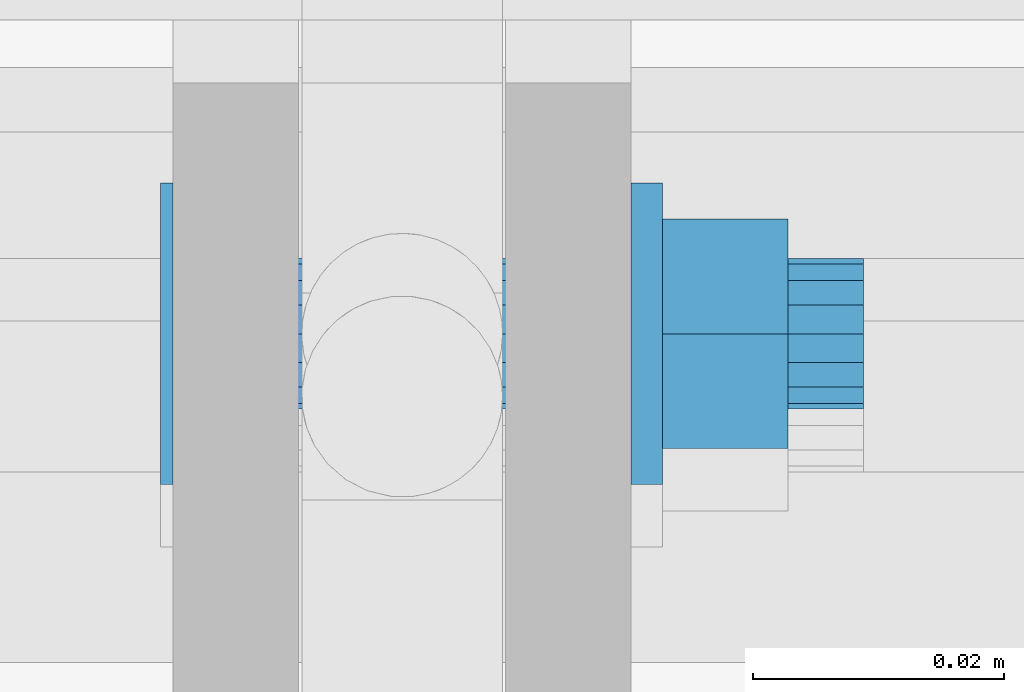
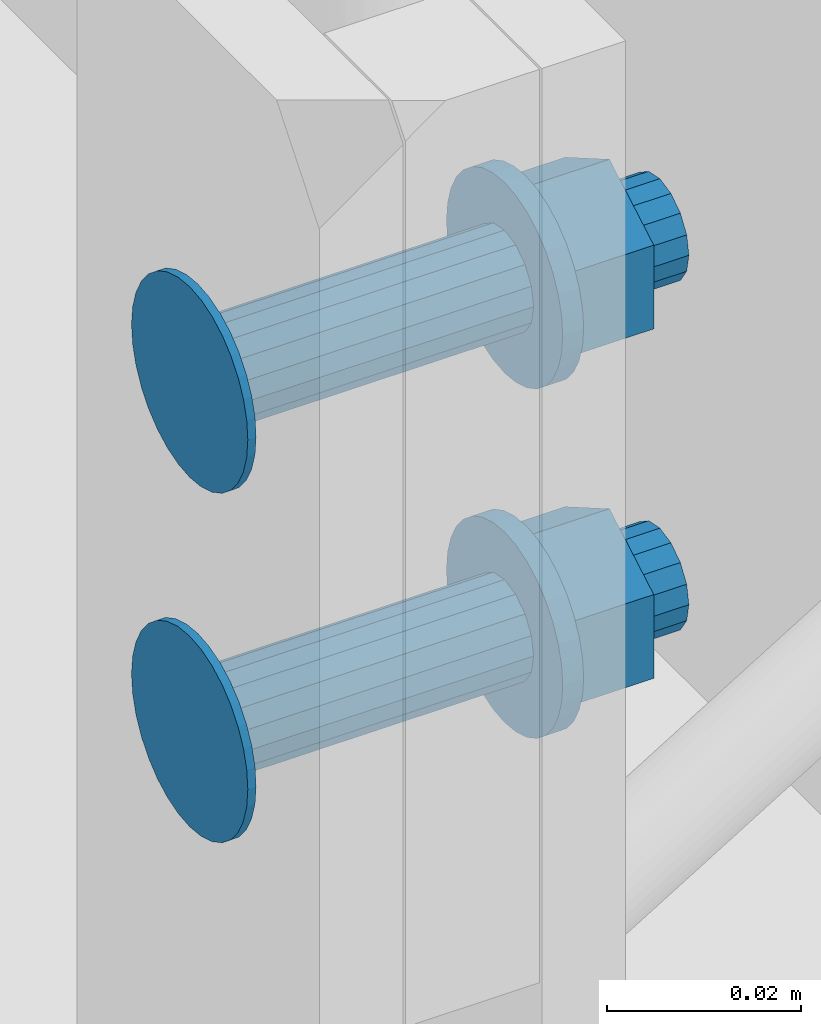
# One storey, part 70 of 98: 1 mechanical fastener.
"""IFC2X3 building model written with IfcOpenShell, lengths in millimetres."""

from ifc_helpers import new_model, entity, si_unit, converted_unit, origin_with_axes, place, context, project, spatial, faceted_brep, element, save


model = new_model("IFC2X3")

# Units and contexts
model_context = context("Model", 3, precision=1e-09, world=origin_with_axes())
ifc_project = project(units=[si_unit("LENGTHUNIT", "METRE", prefix="MILLI"), si_unit("AREAUNIT", "SQUARE_METRE"), si_unit("VOLUMEUNIT", "CUBIC_METRE"), converted_unit("PLANEANGLEUNIT", "DEGREE", entity("IfcPlaneAngleMeasure", 0.01745329), si_unit("PLANEANGLEUNIT", "RADIAN"), dimensions=[0, 0, 0, 0, 0, 0, 0])], contexts=[model_context])

# Site, building, storey
site_placement = place(None, origin_with_axes())
site = spatial("IfcSite", under=ifc_project, at=site_placement, Name="Maybachstra?e 2, 71563 Affalterbach", CompositionType="ELEMENT")
building_placement = place(site_placement, origin_with_axes())
building = spatial("IfcBuilding", under=site, at=building_placement, Name="Struktur 1", CompositionType="ELEMENT")
storey_placement = place(building_placement, origin_with_axes())
storey = spatial("IfcBuildingStorey", under=building, at=storey_placement, Name="Default Storey", CompositionType="ELEMENT", Elevation=0.0)

# Mechanical fastener
mechanical_fastener_placement = place(None, origin_with_axes())
element("IfcMechanicalFastener", 1, at=mechanical_fastener_placement, inside=storey, ObjectType="-", NominalDiameter=12.0, NominalLength=55.0, context=model_context, shape_type="Brep", body=[
    faceted_brep([(7996.779157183, -52.0, 1619.182336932), (7995.779157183, -52.0, 1619.182336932), (7995.779157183, -51.769423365, 1616.841253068), (7996.779157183, -51.769423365, 1616.841253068), (7995.779157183, -51.08655439, 1614.590135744), (7996.779157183, -51.08655439, 1614.590135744), (7995.779157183, -49.977635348, 1612.515494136), (7996.779157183, -49.977635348, 1612.515494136), (7995.779157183, -48.485281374, 1610.697055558), (7996.779157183, -48.485281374, 1610.697055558), (7995.779157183, -46.666842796, 1609.204701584), (7996.779157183, -46.666842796, 1609.204701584), (7995.779157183, -44.592201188, 1608.095782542), (7996.779157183, -44.592201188, 1608.095782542), (7995.779157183, -42.341083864, 1607.412913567), (7996.779157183, -42.341083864, 1607.412913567), (7995.779157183, -40.0, 1607.182336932), (7996.779157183, -40.0, 1607.182336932), (7995.779157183, -37.658916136, 1607.412913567), (7996.779157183, -37.658916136, 1607.412913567), (7995.779157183, -35.407798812, 1608.095782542), (7996.779157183, -35.407798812, 1608.095782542), (7995.779157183, -33.333157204, 1609.204701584), (7996.779157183, -33.333157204, 1609.204701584), (7995.779157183, -31.514718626, 1610.697055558), (7996.779157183, -31.514718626, 1610.697055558), (7995.779157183, -30.022364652, 1612.515494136), (7996.779157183, -30.022364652, 1612.515494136), (7995.779157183, -28.91344561, 1614.590135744), (7996.779157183, -28.91344561, 1614.590135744), (7995.779157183, -28.230576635, 1616.841253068), (7996.779157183, -28.230576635, 1616.841253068), (7995.779157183, -28.0, 1619.182336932), (7996.779157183, -28.0, 1619.182336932), (7995.779157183, -28.230576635, 1621.523420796), (7996.779157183, -28.230576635, 1621.523420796), (7995.779157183, -28.91344561, 1623.77453812), (7996.779157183, -28.91344561, 1623.77453812), (7995.779157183, -30.022364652, 1625.849179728), (7996.779157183, -30.022364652, 1625.849179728), (7995.779157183, -31.514718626, 1627.667618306), (7996.779157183, -31.514718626, 1627.667618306), (7995.779157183, -33.333157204, 1629.15997228), (7996.779157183, -33.333157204, 1629.15997228), (7995.779157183, -35.407798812, 1630.268891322), (7996.779157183, -35.407798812, 1630.268891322), (7995.779157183, -37.658916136, 1630.951760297), (7996.779157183, -37.658916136, 1630.951760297), (7995.779157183, -40.0, 1631.182336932), (7996.779157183, -40.0, 1631.182336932), (7995.779157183, -42.341083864, 1630.951760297), (7996.779157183, -42.341083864, 1630.951760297), (7995.779157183, -44.592201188, 1630.268891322), (7996.779157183, -44.592201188, 1630.268891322), (7995.779157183, -46.666842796, 1629.15997228), (7996.779157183, -46.666842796, 1629.15997228), (7995.779157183, -48.485281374, 1627.667618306), (7996.779157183, -48.485281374, 1627.667618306), (7995.779157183, -49.977635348, 1625.849179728), (7996.779157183, -49.977635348, 1625.849179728), (7995.779157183, -51.08655439, 1623.77453812), (7996.779157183, -51.08655439, 1623.77453812), (7995.779157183, -51.769423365, 1621.523420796), (7996.779157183, -51.769423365, 1621.523420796)], [[[0, 1, 2, 3]], [[3, 2, 4, 5]], [[5, 4, 6, 7]], [[7, 6, 8, 9]], [[9, 8, 10, 11]], [[11, 10, 12, 13]], [[13, 12, 14, 15]], [[15, 14, 16, 17]], [[17, 16, 18, 19]], [[19, 18, 20, 21]], [[21, 20, 22, 23]], [[23, 22, 24, 25]], [[25, 24, 26, 27]], [[27, 26, 28, 29]], [[29, 28, 30, 31]], [[31, 30, 32, 33]], [[33, 32, 34, 35]], [[35, 34, 36, 37]], [[37, 36, 38, 39]], [[39, 38, 40, 41]], [[41, 40, 42, 43]], [[43, 42, 44, 45]], [[45, 44, 46, 47]], [[47, 46, 48, 49]], [[49, 48, 50, 51]], [[51, 50, 52, 53]], [[53, 52, 54, 55]], [[55, 54, 56, 57]], [[57, 56, 58, 59]], [[59, 58, 60, 61]], [[61, 60, 62, 63]], [[63, 62, 1, 0]], [[2, 1, 62, 60, 58, 56, 54, 52, 50, 48, 46, 44, 42, 40, 38, 36, 34, 32, 30, 28, 26, 24, 22, 20, 18, 16, 14, 12, 10, 8, 6, 4]], [[63, 0, 3, 5, 7, 9, 11, 13, 15, 17, 19, 21, 23, 25, 27, 29, 31, 33, 35, 37, 39, 41, 43, 45, 47, 49, 51, 53, 55, 57, 59, 61]]]),
    faceted_brep([(7996.779157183, -52.0, 1575.182336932), (7995.779157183, -52.0, 1575.182336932), (7995.779157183, -51.769423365, 1572.841253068), (7996.779157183, -51.769423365, 1572.841253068), (7995.779157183, -51.08655439, 1570.590135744), (7996.779157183, -51.08655439, 1570.590135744), (7995.779157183, -49.977635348, 1568.515494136), (7996.779157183, -49.977635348, 1568.515494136), (7995.779157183, -48.485281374, 1566.697055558), (7996.779157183, -48.485281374, 1566.697055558), (7995.779157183, -46.666842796, 1565.204701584), (7996.779157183, -46.666842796, 1565.204701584), (7995.779157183, -44.592201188, 1564.095782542), (7996.779157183, -44.592201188, 1564.095782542), (7995.779157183, -42.341083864, 1563.412913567), (7996.779157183, -42.341083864, 1563.412913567), (7995.779157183, -40.0, 1563.182336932), (7996.779157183, -40.0, 1563.182336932), (7995.779157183, -37.658916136, 1563.412913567), (7996.779157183, -37.658916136, 1563.412913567), (7995.779157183, -35.407798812, 1564.095782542), (7996.779157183, -35.407798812, 1564.095782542), (7995.779157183, -33.333157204, 1565.204701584), (7996.779157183, -33.333157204, 1565.204701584), (7995.779157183, -31.514718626, 1566.697055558), (7996.779157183, -31.514718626, 1566.697055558), (7995.779157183, -30.022364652, 1568.515494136), (7996.779157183, -30.022364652, 1568.515494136), (7995.779157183, -28.91344561, 1570.590135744), (7996.779157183, -28.91344561, 1570.590135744), (7995.779157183, -28.230576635, 1572.841253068), (7996.779157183, -28.230576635, 1572.841253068), (7995.779157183, -28.0, 1575.182336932), (7996.779157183, -28.0, 1575.182336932), (7995.779157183, -28.230576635, 1577.523420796), (7996.779157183, -28.230576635, 1577.523420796), (7995.779157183, -28.91344561, 1579.77453812), (7996.779157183, -28.91344561, 1579.77453812), (7995.779157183, -30.022364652, 1581.849179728), (7996.779157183, -30.022364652, 1581.849179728), (7995.779157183, -31.514718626, 1583.667618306), (7996.779157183, -31.514718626, 1583.667618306), (7995.779157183, -33.333157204, 1585.15997228), (7996.779157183, -33.333157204, 1585.15997228), (7995.779157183, -35.407798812, 1586.268891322), (7996.779157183, -35.407798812, 1586.268891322), (7995.779157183, -37.658916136, 1586.951760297), (7996.779157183, -37.658916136, 1586.951760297), (7995.779157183, -40.0, 1587.182336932), (7996.779157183, -40.0, 1587.182336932), (7995.779157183, -42.341083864, 1586.951760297), (7996.779157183, -42.341083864, 1586.951760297), (7995.779157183, -44.592201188, 1586.268891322), (7996.779157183, -44.592201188, 1586.268891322), (7995.779157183, -46.666842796, 1585.15997228), (7996.779157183, -46.666842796, 1585.15997228), (7995.779157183, -48.485281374, 1583.667618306), (7996.779157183, -48.485281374, 1583.667618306), (7995.779157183, -49.977635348, 1581.849179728), (7996.779157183, -49.977635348, 1581.849179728), (7995.779157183, -51.08655439, 1579.77453812), (7996.779157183, -51.08655439, 1579.77453812), (7995.779157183, -51.769423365, 1577.523420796), (7996.779157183, -51.769423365, 1577.523420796)], [[[0, 1, 2, 3]], [[3, 2, 4, 5]], [[5, 4, 6, 7]], [[7, 6, 8, 9]], [[9, 8, 10, 11]], [[11, 10, 12, 13]], [[13, 12, 14, 15]], [[15, 14, 16, 17]], [[17, 16, 18, 19]], [[19, 18, 20, 21]], [[21, 20, 22, 23]], [[23, 22, 24, 25]], [[25, 24, 26, 27]], [[27, 26, 28, 29]], [[29, 28, 30, 31]], [[31, 30, 32, 33]], [[33, 32, 34, 35]], [[35, 34, 36, 37]], [[37, 36, 38, 39]], [[39, 38, 40, 41]], [[41, 40, 42, 43]], [[43, 42, 44, 45]], [[45, 44, 46, 47]], [[47, 46, 48, 49]], [[49, 48, 50, 51]], [[51, 50, 52, 53]], [[53, 52, 54, 55]], [[55, 54, 56, 57]], [[57, 56, 58, 59]], [[59, 58, 60, 61]], [[61, 60, 62, 63]], [[63, 62, 1, 0]], [[2, 1, 62, 60, 58, 56, 54, 52, 50, 48, 46, 44, 42, 40, 38, 36, 34, 32, 30, 28, 26, 24, 22, 20, 18, 16, 14, 12, 10, 8, 6, 4]], [[63, 0, 3, 5, 7, 9, 11, 13, 15, 17, 19, 21, 23, 25, 27, 29, 31, 33, 35, 37, 39, 41, 43, 45, 47, 49, 51, 53, 55, 57, 59, 61]]]),
    faceted_brep([(8033.279157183, -46.0, 1619.182336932), (7996.779157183, -46.0, 1619.182336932), (7996.779157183, -45.543277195, 1616.886236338), (8033.279157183, -45.543277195, 1616.886236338), (7996.779157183, -44.242640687, 1614.939696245), (8033.279157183, -44.242640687, 1614.939696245), (7996.779157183, -42.296100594, 1613.639059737), (8033.279157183, -42.296100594, 1613.639059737), (7996.779157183, -40.0, 1613.182336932), (8033.279157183, -40.0, 1613.182336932), (7996.779157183, -37.703899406, 1613.639059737), (8033.279157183, -37.703899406, 1613.639059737), (7996.779157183, -35.757359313, 1614.939696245), (8033.279157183, -35.757359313, 1614.939696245), (7996.779157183, -34.456722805, 1616.886236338), (8033.279157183, -34.456722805, 1616.886236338), (7996.779157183, -34.0, 1619.182336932), (8033.279157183, -34.0, 1619.182336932), (7996.779157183, -34.456722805, 1621.478437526), (8033.279157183, -34.456722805, 1621.478437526), (7996.779157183, -35.757359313, 1623.424977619), (8033.279157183, -35.757359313, 1623.424977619), (7996.779157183, -37.703899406, 1624.725614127), (8033.279157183, -37.703899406, 1624.725614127), (7996.779157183, -40.0, 1625.182336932), (8033.279157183, -40.0, 1625.182336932), (7996.779157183, -42.296100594, 1624.725614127), (8033.279157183, -42.296100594, 1624.725614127), (7996.779157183, -44.242640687, 1623.424977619), (8033.279157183, -44.242640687, 1623.424977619), (7996.779157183, -45.543277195, 1621.478437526), (8033.279157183, -45.543277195, 1621.478437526)], [[[0, 1, 2, 3]], [[3, 2, 4, 5]], [[5, 4, 6, 7]], [[7, 6, 8, 9]], [[9, 8, 10, 11]], [[11, 10, 12, 13]], [[13, 12, 14, 15]], [[15, 14, 16, 17]], [[17, 16, 18, 19]], [[19, 18, 20, 21]], [[21, 20, 22, 23]], [[23, 22, 24, 25]], [[25, 24, 26, 27]], [[27, 26, 28, 29]], [[29, 28, 30, 31]], [[31, 30, 1, 0]], [[2, 1, 30, 28, 26, 24, 22, 20, 18, 16, 14, 12, 10, 8, 6, 4]], [[31, 0, 3, 5, 7, 9, 11, 13, 15, 17, 19, 21, 23, 25, 27, 29]]]),
    faceted_brep([(8033.279157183, -46.0, 1575.182336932), (7996.779157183, -46.0, 1575.182336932), (7996.779157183, -45.543277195, 1572.886236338), (8033.279157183, -45.543277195, 1572.886236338), (7996.779157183, -44.242640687, 1570.939696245), (8033.279157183, -44.242640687, 1570.939696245), (7996.779157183, -42.296100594, 1569.639059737), (8033.279157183, -42.296100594, 1569.639059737), (7996.779157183, -40.0, 1569.182336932), (8033.279157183, -40.0, 1569.182336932), (7996.779157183, -37.703899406, 1569.639059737), (8033.279157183, -37.703899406, 1569.639059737), (7996.779157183, -35.757359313, 1570.939696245), (8033.279157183, -35.757359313, 1570.939696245), (7996.779157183, -34.456722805, 1572.886236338), (8033.279157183, -34.456722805, 1572.886236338), (7996.779157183, -34.0, 1575.182336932), (8033.279157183, -34.0, 1575.182336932), (7996.779157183, -34.456722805, 1577.478437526), (8033.279157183, -34.456722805, 1577.478437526), (7996.779157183, -35.757359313, 1579.424977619), (8033.279157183, -35.757359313, 1579.424977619), (7996.779157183, -37.703899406, 1580.725614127), (8033.279157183, -37.703899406, 1580.725614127), (7996.779157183, -40.0, 1581.182336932), (8033.279157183, -40.0, 1581.182336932), (7996.779157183, -42.296100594, 1580.725614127), (8033.279157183, -42.296100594, 1580.725614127), (7996.779157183, -44.242640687, 1579.424977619), (8033.279157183, -44.242640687, 1579.424977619), (7996.779157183, -45.543277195, 1577.478437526), (8033.279157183, -45.543277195, 1577.478437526)], [[[0, 1, 2, 3]], [[3, 2, 4, 5]], [[5, 4, 6, 7]], [[7, 6, 8, 9]], [[9, 8, 10, 11]], [[11, 10, 12, 13]], [[13, 12, 14, 15]], [[15, 14, 16, 17]], [[17, 16, 18, 19]], [[19, 18, 20, 21]], [[21, 20, 22, 23]], [[23, 22, 24, 25]], [[25, 24, 26, 27]], [[27, 26, 28, 29]], [[29, 28, 30, 31]], [[31, 30, 1, 0]], [[2, 1, 30, 28, 26, 24, 22, 20, 18, 16, 14, 12, 10, 8, 6, 4]], [[31, 0, 3, 5, 7, 9, 11, 13, 15, 17, 19, 21, 23, 25, 27, 29]]]),
    faceted_brep([(8035.779157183, -52.0, 1619.182336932), (8033.279157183, -52.0, 1619.182336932), (8033.279157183, -51.769423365, 1616.841253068), (8035.779157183, -51.769423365, 1616.841253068), (8033.279157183, -51.08655439, 1614.590135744), (8035.779157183, -51.08655439, 1614.590135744), (8033.279157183, -49.977635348, 1612.515494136), (8035.779157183, -49.977635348, 1612.515494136), (8033.279157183, -48.485281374, 1610.697055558), (8035.779157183, -48.485281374, 1610.697055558), (8033.279157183, -46.666842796, 1609.204701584), (8035.779157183, -46.666842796, 1609.204701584), (8033.279157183, -44.592201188, 1608.095782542), (8035.779157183, -44.592201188, 1608.095782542), (8033.279157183, -42.341083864, 1607.412913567), (8035.779157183, -42.341083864, 1607.412913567), (8033.279157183, -40.0, 1607.182336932), (8035.779157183, -40.0, 1607.182336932), (8033.279157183, -37.658916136, 1607.412913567), (8035.779157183, -37.658916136, 1607.412913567), (8033.279157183, -35.407798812, 1608.095782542), (8035.779157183, -35.407798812, 1608.095782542), (8033.279157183, -33.333157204, 1609.204701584), (8035.779157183, -33.333157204, 1609.204701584), (8033.279157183, -31.514718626, 1610.697055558), (8035.779157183, -31.514718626, 1610.697055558), (8033.279157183, -30.022364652, 1612.515494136), (8035.779157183, -30.022364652, 1612.515494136), (8033.279157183, -28.91344561, 1614.590135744), (8035.779157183, -28.91344561, 1614.590135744), (8033.279157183, -28.230576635, 1616.841253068), (8035.779157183, -28.230576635, 1616.841253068), (8033.279157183, -28.0, 1619.182336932), (8035.779157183, -28.0, 1619.182336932), (8033.279157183, -28.230576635, 1621.523420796), (8035.779157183, -28.230576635, 1621.523420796), (8033.279157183, -28.91344561, 1623.77453812), (8035.779157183, -28.91344561, 1623.77453812), (8033.279157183, -30.022364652, 1625.849179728), (8035.779157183, -30.022364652, 1625.849179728), (8033.279157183, -31.514718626, 1627.667618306), (8035.779157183, -31.514718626, 1627.667618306), (8033.279157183, -33.333157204, 1629.15997228), (8035.779157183, -33.333157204, 1629.15997228), (8033.279157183, -35.407798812, 1630.268891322), (8035.779157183, -35.407798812, 1630.268891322), (8033.279157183, -37.658916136, 1630.951760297), (8035.779157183, -37.658916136, 1630.951760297), (8033.279157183, -40.0, 1631.182336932), (8035.779157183, -40.0, 1631.182336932), (8033.279157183, -42.341083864, 1630.951760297), (8035.779157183, -42.341083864, 1630.951760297), (8033.279157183, -44.592201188, 1630.268891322), (8035.779157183, -44.592201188, 1630.268891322), (8033.279157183, -46.666842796, 1629.15997228), (8035.779157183, -46.666842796, 1629.15997228), (8033.279157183, -48.485281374, 1627.667618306), (8035.779157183, -48.485281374, 1627.667618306), (8033.279157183, -49.977635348, 1625.849179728), (8035.779157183, -49.977635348, 1625.849179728), (8033.279157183, -51.08655439, 1623.77453812), (8035.779157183, -51.08655439, 1623.77453812), (8033.279157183, -51.769423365, 1621.523420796), (8035.779157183, -51.769423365, 1621.523420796)], [[[0, 1, 2, 3]], [[3, 2, 4, 5]], [[5, 4, 6, 7]], [[7, 6, 8, 9]], [[9, 8, 10, 11]], [[11, 10, 12, 13]], [[13, 12, 14, 15]], [[15, 14, 16, 17]], [[17, 16, 18, 19]], [[19, 18, 20, 21]], [[21, 20, 22, 23]], [[23, 22, 24, 25]], [[25, 24, 26, 27]], [[27, 26, 28, 29]], [[29, 28, 30, 31]], [[31, 30, 32, 33]], [[33, 32, 34, 35]], [[35, 34, 36, 37]], [[37, 36, 38, 39]], [[39, 38, 40, 41]], [[41, 40, 42, 43]], [[43, 42, 44, 45]], [[45, 44, 46, 47]], [[47, 46, 48, 49]], [[49, 48, 50, 51]], [[51, 50, 52, 53]], [[53, 52, 54, 55]], [[55, 54, 56, 57]], [[57, 56, 58, 59]], [[59, 58, 60, 61]], [[61, 60, 62, 63]], [[63, 62, 1, 0]], [[2, 1, 62, 60, 58, 56, 54, 52, 50, 48, 46, 44, 42, 40, 38, 36, 34, 32, 30, 28, 26, 24, 22, 20, 18, 16, 14, 12, 10, 8, 6, 4]], [[63, 0, 3, 5, 7, 9, 11, 13, 15, 17, 19, 21, 23, 25, 27, 29, 31, 33, 35, 37, 39, 41, 43, 45, 47, 49, 51, 53, 55, 57, 59, 61]]]),
    faceted_brep([(8035.779157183, -52.0, 1575.182336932), (8033.279157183, -52.0, 1575.182336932), (8033.279157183, -51.769423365, 1572.841253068), (8035.779157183, -51.769423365, 1572.841253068), (8033.279157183, -51.08655439, 1570.590135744), (8035.779157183, -51.08655439, 1570.590135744), (8033.279157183, -49.977635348, 1568.515494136), (8035.779157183, -49.977635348, 1568.515494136), (8033.279157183, -48.485281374, 1566.697055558), (8035.779157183, -48.485281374, 1566.697055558), (8033.279157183, -46.666842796, 1565.204701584), (8035.779157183, -46.666842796, 1565.204701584), (8033.279157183, -44.592201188, 1564.095782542), (8035.779157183, -44.592201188, 1564.095782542), (8033.279157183, -42.341083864, 1563.412913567), (8035.779157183, -42.341083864, 1563.412913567), (8033.279157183, -40.0, 1563.182336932), (8035.779157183, -40.0, 1563.182336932), (8033.279157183, -37.658916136, 1563.412913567), (8035.779157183, -37.658916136, 1563.412913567), (8033.279157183, -35.407798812, 1564.095782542), (8035.779157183, -35.407798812, 1564.095782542), (8033.279157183, -33.333157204, 1565.204701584), (8035.779157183, -33.333157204, 1565.204701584), (8033.279157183, -31.514718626, 1566.697055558), (8035.779157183, -31.514718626, 1566.697055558), (8033.279157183, -30.022364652, 1568.515494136), (8035.779157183, -30.022364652, 1568.515494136), (8033.279157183, -28.91344561, 1570.590135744), (8035.779157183, -28.91344561, 1570.590135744), (8033.279157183, -28.230576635, 1572.841253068), (8035.779157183, -28.230576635, 1572.841253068), (8033.279157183, -28.0, 1575.182336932), (8035.779157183, -28.0, 1575.182336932), (8033.279157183, -28.230576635, 1577.523420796), (8035.779157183, -28.230576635, 1577.523420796), (8033.279157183, -28.91344561, 1579.77453812), (8035.779157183, -28.91344561, 1579.77453812), (8033.279157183, -30.022364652, 1581.849179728), (8035.779157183, -30.022364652, 1581.849179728), (8033.279157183, -31.514718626, 1583.667618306), (8035.779157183, -31.514718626, 1583.667618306), (8033.279157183, -33.333157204, 1585.15997228), (8035.779157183, -33.333157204, 1585.15997228), (8033.279157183, -35.407798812, 1586.268891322), (8035.779157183, -35.407798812, 1586.268891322), (8033.279157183, -37.658916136, 1586.951760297), (8035.779157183, -37.658916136, 1586.951760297), (8033.279157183, -40.0, 1587.182336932), (8035.779157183, -40.0, 1587.182336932), (8033.279157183, -42.341083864, 1586.951760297), (8035.779157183, -42.341083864, 1586.951760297), (8033.279157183, -44.592201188, 1586.268891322), (8035.779157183, -44.592201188, 1586.268891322), (8033.279157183, -46.666842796, 1585.15997228), (8035.779157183, -46.666842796, 1585.15997228), (8033.279157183, -48.485281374, 1583.667618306), (8035.779157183, -48.485281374, 1583.667618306), (8033.279157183, -49.977635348, 1581.849179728), (8035.779157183, -49.977635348, 1581.849179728), (8033.279157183, -51.08655439, 1579.77453812), (8035.779157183, -51.08655439, 1579.77453812), (8033.279157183, -51.769423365, 1577.523420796), (8035.779157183, -51.769423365, 1577.523420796)], [[[0, 1, 2, 3]], [[3, 2, 4, 5]], [[5, 4, 6, 7]], [[7, 6, 8, 9]], [[9, 8, 10, 11]], [[11, 10, 12, 13]], [[13, 12, 14, 15]], [[15, 14, 16, 17]], [[17, 16, 18, 19]], [[19, 18, 20, 21]], [[21, 20, 22, 23]], [[23, 22, 24, 25]], [[25, 24, 26, 27]], [[27, 26, 28, 29]], [[29, 28, 30, 31]], [[31, 30, 32, 33]], [[33, 32, 34, 35]], [[35, 34, 36, 37]], [[37, 36, 38, 39]], [[39, 38, 40, 41]], [[41, 40, 42, 43]], [[43, 42, 44, 45]], [[45, 44, 46, 47]], [[47, 46, 48, 49]], [[49, 48, 50, 51]], [[51, 50, 52, 53]], [[53, 52, 54, 55]], [[55, 54, 56, 57]], [[57, 56, 58, 59]], [[59, 58, 60, 61]], [[61, 60, 62, 63]], [[63, 62, 1, 0]], [[2, 1, 62, 60, 58, 56, 54, 52, 50, 48, 46, 44, 42, 40, 38, 36, 34, 32, 30, 28, 26, 24, 22, 20, 18, 16, 14, 12, 10, 8, 6, 4]], [[63, 0, 3, 5, 7, 9, 11, 13, 15, 17, 19, 21, 23, 25, 27, 29, 31, 33, 35, 37, 39, 41, 43, 45, 47, 49, 51, 53, 55, 57, 59, 61]]]),
    faceted_brep([(8035.779157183, -30.86343199, 1613.907336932), (8045.779157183, -30.86343199, 1613.907336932), (8045.779157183, -40.0, 1608.632336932), (8035.779157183, -40.0, 1608.632336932), (8045.779157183, -49.13656801, 1613.907336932), (8035.779157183, -49.13656801, 1613.907336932), (8045.779157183, -49.13656801, 1624.457336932), (8035.779157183, -49.13656801, 1624.457336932), (8045.779157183, -40.0, 1629.732336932), (8035.779157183, -40.0, 1629.732336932), (8045.779157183, -30.86343199, 1624.457336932), (8035.779157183, -30.86343199, 1624.457336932)], [[[0, 1, 2, 3]], [[3, 2, 4, 5]], [[5, 4, 6, 7]], [[7, 6, 8, 9]], [[9, 8, 10, 11]], [[11, 10, 1, 0]], [[3, 5, 7, 9, 11, 0]], [[2, 1, 10, 8, 6, 4]]]),
    faceted_brep([(8035.779157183, -30.86343199, 1569.907336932), (8045.779157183, -30.86343199, 1569.907336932), (8045.779157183, -40.0, 1564.632336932), (8035.779157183, -40.0, 1564.632336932), (8045.779157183, -49.13656801, 1569.907336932), (8035.779157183, -49.13656801, 1569.907336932), (8045.779157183, -49.13656801, 1580.457336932), (8035.779157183, -49.13656801, 1580.457336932), (8045.779157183, -40.0, 1585.732336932), (8035.779157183, -40.0, 1585.732336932), (8045.779157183, -30.86343199, 1580.457336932), (8035.779157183, -30.86343199, 1580.457336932)], [[[0, 1, 2, 3]], [[3, 2, 4, 5]], [[5, 4, 6, 7]], [[7, 6, 8, 9]], [[9, 8, 10, 11]], [[11, 10, 1, 0]], [[3, 5, 7, 9, 11, 0]], [[2, 1, 10, 8, 6, 4]]]),
    faceted_brep([(8051.779157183, -46.0, 1619.182336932), (8045.779157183, -46.0, 1619.182336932), (8045.779157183, -45.543277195, 1616.886236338), (8051.779157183, -45.543277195, 1616.886236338), (8045.779157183, -44.242640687, 1614.939696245), (8051.779157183, -44.242640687, 1614.939696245), (8045.779157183, -42.296100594, 1613.639059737), (8051.779157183, -42.296100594, 1613.639059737), (8045.779157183, -40.0, 1613.182336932), (8051.779157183, -40.0, 1613.182336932), (8045.779157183, -37.703899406, 1613.639059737), (8051.779157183, -37.703899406, 1613.639059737), (8045.779157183, -35.757359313, 1614.939696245), (8051.779157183, -35.757359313, 1614.939696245), (8045.779157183, -34.456722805, 1616.886236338), (8051.779157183, -34.456722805, 1616.886236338), (8045.779157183, -34.0, 1619.182336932), (8051.779157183, -34.0, 1619.182336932), (8045.779157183, -34.456722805, 1621.478437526), (8051.779157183, -34.456722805, 1621.478437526), (8045.779157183, -35.757359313, 1623.424977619), (8051.779157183, -35.757359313, 1623.424977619), (8045.779157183, -37.703899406, 1624.725614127), (8051.779157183, -37.703899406, 1624.725614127), (8045.779157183, -40.0, 1625.182336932), (8051.779157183, -40.0, 1625.182336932), (8045.779157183, -42.296100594, 1624.725614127), (8051.779157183, -42.296100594, 1624.725614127), (8045.779157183, -44.242640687, 1623.424977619), (8051.779157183, -44.242640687, 1623.424977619), (8045.779157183, -45.543277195, 1621.478437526), (8051.779157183, -45.543277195, 1621.478437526)], [[[0, 1, 2, 3]], [[3, 2, 4, 5]], [[5, 4, 6, 7]], [[7, 6, 8, 9]], [[9, 8, 10, 11]], [[11, 10, 12, 13]], [[13, 12, 14, 15]], [[15, 14, 16, 17]], [[17, 16, 18, 19]], [[19, 18, 20, 21]], [[21, 20, 22, 23]], [[23, 22, 24, 25]], [[25, 24, 26, 27]], [[27, 26, 28, 29]], [[29, 28, 30, 31]], [[31, 30, 1, 0]], [[2, 1, 30, 28, 26, 24, 22, 20, 18, 16, 14, 12, 10, 8, 6, 4]], [[31, 0, 3, 5, 7, 9, 11, 13, 15, 17, 19, 21, 23, 25, 27, 29]]]),
    faceted_brep([(8051.779157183, -46.0, 1575.182336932), (8045.779157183, -46.0, 1575.182336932), (8045.779157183, -45.543277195, 1572.886236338), (8051.779157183, -45.543277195, 1572.886236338), (8045.779157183, -44.242640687, 1570.939696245), (8051.779157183, -44.242640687, 1570.939696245), (8045.779157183, -42.296100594, 1569.639059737), (8051.779157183, -42.296100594, 1569.639059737), (8045.779157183, -40.0, 1569.182336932), (8051.779157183, -40.0, 1569.182336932), (8045.779157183, -37.703899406, 1569.639059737), (8051.779157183, -37.703899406, 1569.639059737), (8045.779157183, -35.757359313, 1570.939696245), (8051.779157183, -35.757359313, 1570.939696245), (8045.779157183, -34.456722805, 1572.886236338), (8051.779157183, -34.456722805, 1572.886236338), (8045.779157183, -34.0, 1575.182336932), (8051.779157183, -34.0, 1575.182336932), (8045.779157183, -34.456722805, 1577.478437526), (8051.779157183, -34.456722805, 1577.478437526), (8045.779157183, -35.757359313, 1579.424977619), (8051.779157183, -35.757359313, 1579.424977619), (8045.779157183, -37.703899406, 1580.725614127), (8051.779157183, -37.703899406, 1580.725614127), (8045.779157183, -40.0, 1581.182336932), (8051.779157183, -40.0, 1581.182336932), (8045.779157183, -42.296100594, 1580.725614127), (8051.779157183, -42.296100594, 1580.725614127), (8045.779157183, -44.242640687, 1579.424977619), (8051.779157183, -44.242640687, 1579.424977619), (8045.779157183, -45.543277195, 1577.478437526), (8051.779157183, -45.543277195, 1577.478437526)], [[[0, 1, 2, 3]], [[3, 2, 4, 5]], [[5, 4, 6, 7]], [[7, 6, 8, 9]], [[9, 8, 10, 11]], [[11, 10, 12, 13]], [[13, 12, 14, 15]], [[15, 14, 16, 17]], [[17, 16, 18, 19]], [[19, 18, 20, 21]], [[21, 20, 22, 23]], [[23, 22, 24, 25]], [[25, 24, 26, 27]], [[27, 26, 28, 29]], [[29, 28, 30, 31]], [[31, 30, 1, 0]], [[2, 1, 30, 28, 26, 24, 22, 20, 18, 16, 14, 12, 10, 8, 6, 4]], [[31, 0, 3, 5, 7, 9, 11, 13, 15, 17, 19, 21, 23, 25, 27, 29]]]),
])

save(model, "model.ifc")
